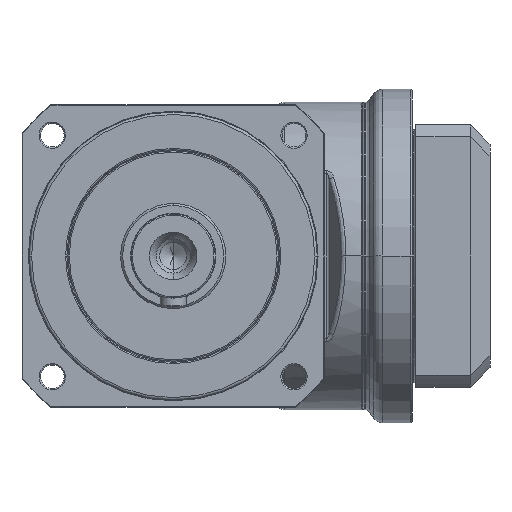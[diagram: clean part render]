
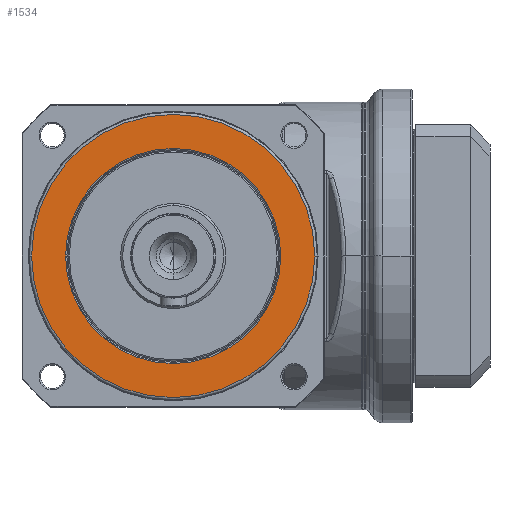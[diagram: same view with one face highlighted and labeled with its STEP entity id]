
A CAD part, left-side view. The second image highlights one B-rep face of the part: STEP entity #1534.
In plain terms, the highlighted planar face has unit normal (-1, 0, 0).
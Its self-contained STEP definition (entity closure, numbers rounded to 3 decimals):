
#1=CARTESIAN_POINT('',(0.,0.,0.));
#2=DIRECTION('',(1.,0.,0.));
#3=DIRECTION('',(0.,1.,0.));
#4=AXIS2_PLACEMENT_3D('',#1,#2,#3);
#6=CARTESIAN_POINT('',(0.,0.,0.));
#7=DIRECTION('',(1.,0.,0.));
#8=DIRECTION('',(0.,-1.,0.));
#9=AXIS2_PLACEMENT_3D('',#6,#7,#8);
#11=CARTESIAN_POINT('',(0.,0.,0.));
#12=DIRECTION('',(-1.,0.,0.));
#13=DIRECTION('',(0.,1.,0.));
#14=AXIS2_PLACEMENT_3D('',#11,#12,#13);
#16=CARTESIAN_POINT('',(0.,0.,0.));
#17=DIRECTION('',(-1.,0.,0.));
#18=DIRECTION('',(0.,-1.,0.));
#19=AXIS2_PLACEMENT_3D('',#16,#17,#18);
#1261=CARTESIAN_POINT('',(0.,40.92,0.));
#1262=CARTESIAN_POINT('',(0.,-40.92,0.));
#1263=VERTEX_POINT('',#1261);
#1264=VERTEX_POINT('',#1262);
#1469=CARTESIAN_POINT('',(0.,53.842,0.));
#1470=CARTESIAN_POINT('',(0.,-53.842,0.));
#1471=VERTEX_POINT('',#1469);
#1472=VERTEX_POINT('',#1470);
#1517=CARTESIAN_POINT('',(0.,0.,0.));
#1518=DIRECTION('',(1.,0.,0.));
#1519=DIRECTION('',(0.,-1.,0.));
#1520=AXIS2_PLACEMENT_3D('',#1517,#1518,#1519);
#1521=PLANE('',#1520);
#1523=ORIENTED_EDGE('',*,*,#1522,.F.);
#1525=ORIENTED_EDGE('',*,*,#1524,.F.);
#1526=EDGE_LOOP('',(#1523,#1525));
#1527=FACE_OUTER_BOUND('',#1526,.F.);
#1529=ORIENTED_EDGE('',*,*,#1528,.F.);
#1531=ORIENTED_EDGE('',*,*,#1530,.F.);
#1532=EDGE_LOOP('',(#1529,#1531));
#1533=FACE_BOUND('',#1532,.F.);
#1534=ADVANCED_FACE('',(#1527,#1533),#1521,.F.);
#5=CIRCLE('',#4,40.92);
#10=CIRCLE('',#9,40.92);
#15=CIRCLE('',#14,53.842);
#20=CIRCLE('',#19,53.842);
#1522=EDGE_CURVE('',#1471,#1472,#15,.T.);
#1524=EDGE_CURVE('',#1472,#1471,#20,.T.);
#1528=EDGE_CURVE('',#1263,#1264,#5,.T.);
#1530=EDGE_CURVE('',#1264,#1263,#10,.T.);
